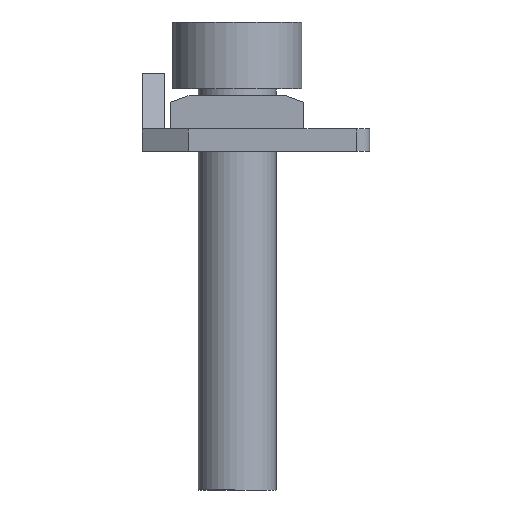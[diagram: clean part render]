
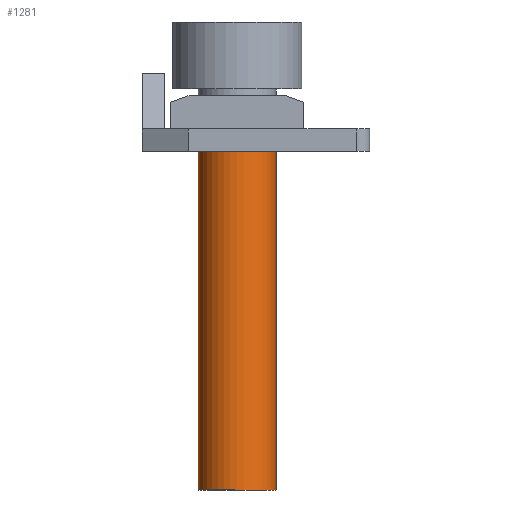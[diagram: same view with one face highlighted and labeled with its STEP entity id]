
A CAD part, left-side view. The second image highlights one B-rep face of the part: STEP entity #1281.
In plain terms, the highlighted cylindrical face has radius 1.75 mm (diameter 3.5 mm), a partial arc.
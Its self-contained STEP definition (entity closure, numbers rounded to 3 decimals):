
#890=CARTESIAN_POINT('',(33.35,64.25,0.2));
#891=VERTEX_POINT('',#890);
#892=CARTESIAN_POINT('',(33.35,67.75,0.2));
#893=VERTEX_POINT('',#892);
#894=CARTESIAN_POINT('',(33.35,66.,0.2));
#895=DIRECTION('',(0.,-1.,0.));
#896=DIRECTION('',(0.,0.,-1.));
#897=AXIS2_PLACEMENT_3D('',#894,#896,#895);
#898=CIRCLE('',#897,1.75);
#899=EDGE_CURVE('',#891,#893,#898,.T.);
#1250=CARTESIAN_POINT('',(33.35,66.,0.2));
#1251=DIRECTION('',(0.,1.,0.));
#1252=DIRECTION('',(0.,0.,-1.));
#1253=AXIS2_PLACEMENT_3D('',#1250,#1252,#1251);
#1254=CYLINDRICAL_SURFACE('',#1253,1.75);
#1255=ORIENTED_EDGE('',*,*,#899,.T.);
#1256=CARTESIAN_POINT('',(33.35,67.75,-16.));
#1257=VERTEX_POINT('',#1256);
#1258=CARTESIAN_POINT('',(33.35,67.75,0.2));
#1259=DIRECTION('',(0.,0.,-1.));
#1260=VECTOR('',#1259,16.2);
#1261=LINE('',#1258,#1260);
#1262=EDGE_CURVE('',#893,#1257,#1261,.T.);
#1263=ORIENTED_EDGE('E26',*,*,#1262,.T.);
#1264=CARTESIAN_POINT('',(33.35,64.25,-16.));
#1265=VERTEX_POINT('',#1264);
#1266=CARTESIAN_POINT('',(33.35,66.,-16.));
#1267=DIRECTION('',(0.,-1.,0.));
#1268=DIRECTION('',(0.,0.,-1.));
#1269=AXIS2_PLACEMENT_3D('',#1266,#1268,#1267);
#1270=CIRCLE('',#1269,1.75);
#1271=EDGE_CURVE('',#1265,#1257,#1270,.T.);
#1272=ORIENTED_EDGE('E14',*,*,#1271,.F.);
#1273=CARTESIAN_POINT('',(33.35,64.25,-16.));
#1274=DIRECTION('',(0.,0.,1.));
#1275=VECTOR('',#1274,16.2);
#1276=LINE('',#1273,#1275);
#1277=EDGE_CURVE('',#1265,#891,#1276,.T.);
#1278=ORIENTED_EDGE('E27',*,*,#1277,.T.);
#1279=EDGE_LOOP('',(#1255,#1263,#1272,#1278));
#1280=FACE_OUTER_BOUND('',#1279,.T.);
#1281=ADVANCED_FACE('F7',(#1280),#1254,.T.);
